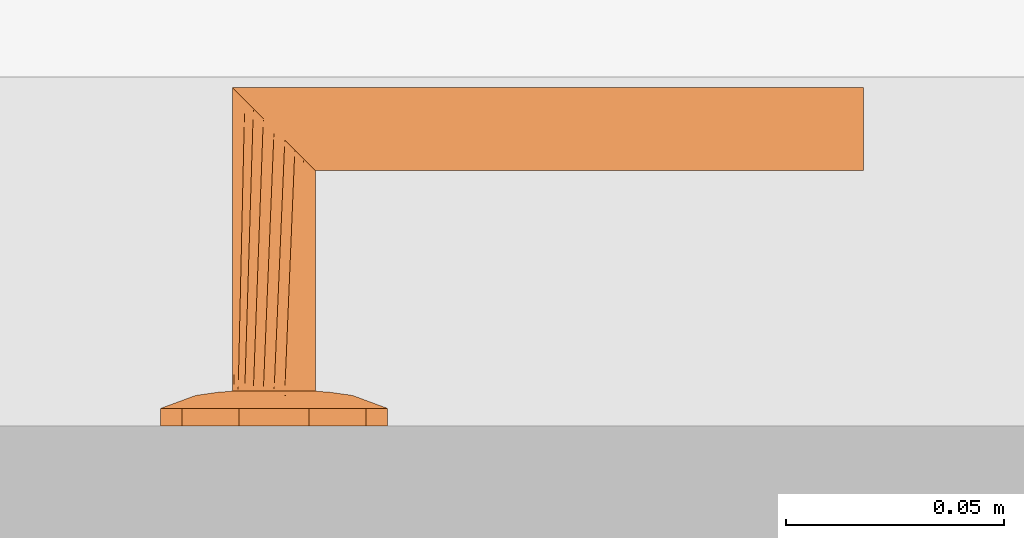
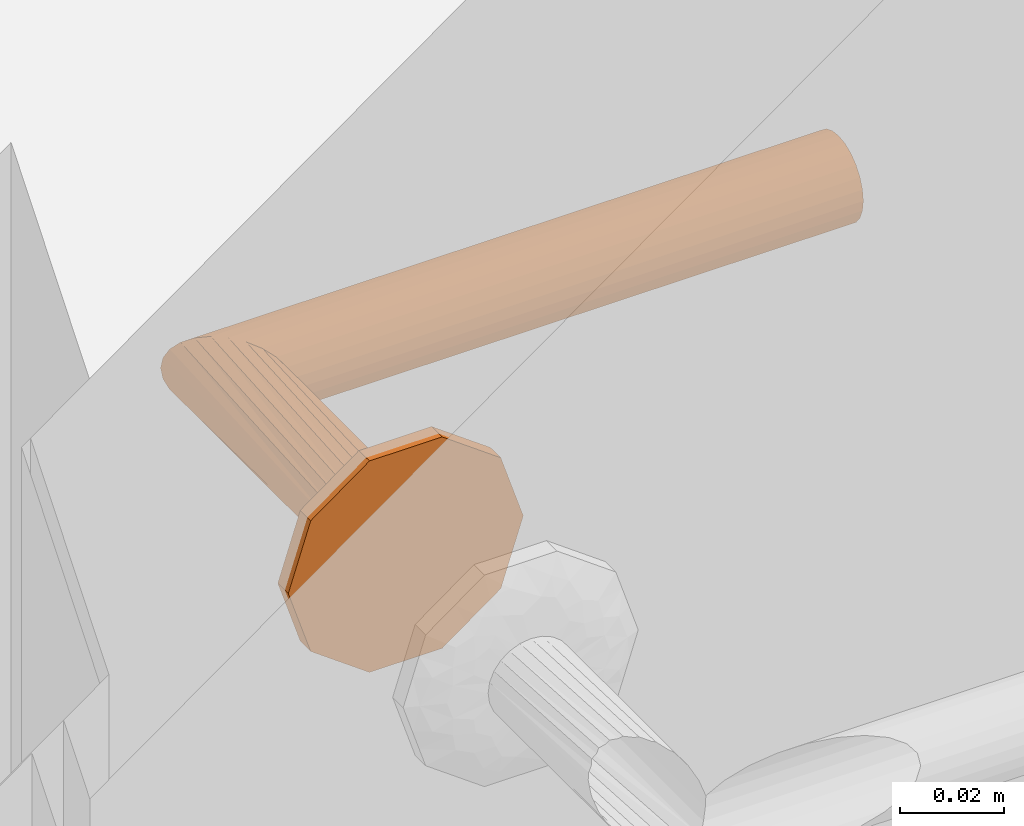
# One storey, part 48 of 55: 1 proxy.
"""IFC2X3 building model written with IfcOpenShell, lengths in millimetres."""

from ifc_helpers import new_model, entity, si_unit, converted_unit, direction, frame, origin, place, context, subcontext, project, spatial, faceted_brep, source, transform, mapped, material, type_object, type_shapes, element, save


model = new_model("IFC2X3")

# Units and contexts
model_context = context("Model", 3, precision=0.01, world=origin(), true_north=direction((6.123233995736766e-17, 1.0)))
plan_context = context("Plan", 3, precision=0.01, world=origin(), true_north=direction((6.123233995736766e-17, 1.0)))
body_context = subcontext(model_context, "Body", "Model", "MODEL_VIEW")
ifc_project = project(units=[si_unit("LENGTHUNIT", "METRE", prefix="MILLI"), converted_unit("PLANEANGLEUNIT", "DEGREE", entity("IfcPlaneAngleMeasure", 0.017453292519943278), si_unit("PLANEANGLEUNIT", "RADIAN"), dimensions=[0, 0, 0, 0, 0, 0, 0]), si_unit("AREAUNIT", "SQUARE_METRE")], contexts=[model_context, plan_context])

# Site, building, storey
site_placement = place(None, origin())
site = spatial("IfcSite", under=ifc_project, at=site_placement, Name="Default", CompositionType="ELEMENT")
building_placement = place(site_placement, origin())
building = spatial("IfcBuilding", under=site, at=building_placement, CompositionType="ELEMENT")
storey_placement = place(building_placement, origin())
storey = spatial("IfcBuildingStorey", under=building, at=storey_placement, Name="1K", CompositionType="ELEMENT", Elevation=0.0)

# Proxy
ifc_material = material(Name="<Unnamed>")
building_element_proxy_type = type_object("IfcBuildingElementProxyType", Name="Door-handle_Lever_ABLOY_INOXI_3-19ss-002_RT:Default", PredefinedType="NOTDEFINED", material=ifc_material)
shared_shape = source(origin(), body_context, "Body", "Brep", [
    faceted_brep([(0.0, 0.0, 0.0), (21.034441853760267, -15.282416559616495, 0.0), (14.534441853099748, -20.00494299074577, 0.0), (8.034441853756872, -24.72746942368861, 0.0), (0.0, -24.72746942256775, 0.0), (23.51722092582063, -7.6412082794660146, 0.0), (26.0, 0.0, 0.0), (-8.034441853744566, -24.727469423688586, 0.0), (-14.534441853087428, -20.00494299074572, 0.0), (-21.03444185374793, -15.282416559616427, 0.0), (-23.517220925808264, -7.641208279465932, 0.0), (-26.0, 0.0, 0.0), (-23.517220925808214, 7.641208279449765, 0.0), (23.517220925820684, 7.641208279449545, 0.0), (21.034441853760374, 15.282416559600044, 0.0), (14.53444185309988, 20.00494299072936, 0.0), (8.034441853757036, 24.72746942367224, 0.0), (-21.034441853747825, 15.282416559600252, 0.0), (-14.53444185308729, 20.004942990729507, 0.0), (-8.0344418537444, 24.72746942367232, 0.0), (0.0, 24.72746942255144, 0.0), (0.0, 0.0, 8.0), (4.7500000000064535, -8.227241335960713, 8.0), (5.937500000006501, -6.170431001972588, 8.0), (7.125000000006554, -4.113620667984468, 8.0), (8.312500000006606, -2.0568103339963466, 8.0), (9.500000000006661, 0.0, 8.0), (8.312500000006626, 2.056810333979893, 8.0), (2.3750000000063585, -8.227241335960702, 8.0), (0.0, -8.227241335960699, 8.0), (-2.3749999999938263, -8.227241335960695, 8.0), (-4.749999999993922, -8.227241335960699, 8.0), (-5.937499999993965, -6.170431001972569, 8.0), (-7.124999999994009, -4.113620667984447, 8.0), (-8.312499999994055, -2.056810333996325, 8.0), (-9.499999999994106, 0.0, 8.0), (7.125000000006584, 4.113620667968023, 8.0), (5.937500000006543, 6.170431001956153, 8.0), (4.750000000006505, 8.227241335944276, 8.0), (2.3750000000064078, 8.22724133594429, 8.0), (-8.31249999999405, 2.0568103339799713, 8.0), (-7.12499999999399, 4.113620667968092, 8.0), (-5.9374999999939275, 6.170431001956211, 8.0), (-4.74999999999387, 8.227241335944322, 8.0), (0.0, 8.227241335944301, 8.0), (-2.374999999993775, 8.227241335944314, 8.0), (-22.488765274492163, -10.806469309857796, 4.030771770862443), (-16.663919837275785, -7.932665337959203, 6.877259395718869), (-20.643071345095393, -6.292822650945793, 5.929480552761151), (-12.50457926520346, -5.179566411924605, 7.774932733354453), (-16.764060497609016, -3.820257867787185, 7.1747985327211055), (-9.071726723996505, -10.311606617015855, 7.7520782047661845), (-11.963426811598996, -8.625290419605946, 7.618343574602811), (-11.979136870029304, -13.678312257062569, 6.945778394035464), (5.7585542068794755, -20.96753300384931, 5.871476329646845), (0.0, -24.72746942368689, 4.030771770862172), (8.03444185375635, -24.727469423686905, 4.030771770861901), (16.66391982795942, -7.932665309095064, 6.877259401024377), (22.488765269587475, -10.806469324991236, 4.03077177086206), (20.64307133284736, -6.29282258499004, 5.929480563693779), (14.534441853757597, -20.004942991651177, 4.030771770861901), (9.499431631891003, -18.64368355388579, 6.154325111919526), (-15.783149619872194, -11.991003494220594, 6.50080018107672), (-21.034441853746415, -15.282416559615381, 4.030771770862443), (-14.53444185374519, -20.00494299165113, 4.030771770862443), (-23.012042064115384, 0.0, 5.135401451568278), (-23.943088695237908, -6.330522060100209, 4.030771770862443), (11.96342678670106, -8.62529049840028, 7.618343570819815), (12.504579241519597, -5.179566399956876, 7.774932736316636), (16.764060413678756, -3.8202578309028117, 7.17479855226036), (15.783149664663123, -11.991003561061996, 6.50080015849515), (17.985351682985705, 0.0, 6.993737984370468), (23.012042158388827, 0.0, 5.135401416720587), (8.661516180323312, -10.478936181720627, 7.768126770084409), (-8.03444185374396, -24.727469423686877, 4.030771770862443), (-3.3573143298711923, -21.197247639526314, 5.971427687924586), (-9.941915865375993, -17.061976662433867, 6.522757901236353), (-5.973257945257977, -16.430139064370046, 7.110979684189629), (-7.711266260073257, -12.760344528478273, 7.594456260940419), (11.979136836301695, -13.678312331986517, 6.945778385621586), (7.511307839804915, -13.358932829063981, 7.529187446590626), (5.953298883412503, -16.50608604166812, 7.096344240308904), (-1.5654593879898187, -15.307443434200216, 7.519134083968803), (-7.784980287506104, -20.476295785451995, 5.812837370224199), (2.8135289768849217, -17.76392260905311, 6.993737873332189), (-17.98535168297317, 0.0, 6.993737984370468), (-26.0, 0.0, 4.030771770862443), (-23.51722092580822, -7.641208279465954, 4.030771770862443), (23.943088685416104, -6.33052209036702, 4.030771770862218), (24.308823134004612, -5.204907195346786, 4.030771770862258), (26.0, 0.0, 4.030771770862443), (21.03444185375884, -15.282416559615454, 4.030771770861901), (22.617646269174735, -10.40981439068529, 4.030771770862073), (22.488765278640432, 10.806469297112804, 4.030771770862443), (16.66391984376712, 7.932665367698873, 6.877259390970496), (20.643071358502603, 6.292822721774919, 5.929480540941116), (12.504579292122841, 5.179566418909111, 7.774932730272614), (16.764060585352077, 3.8202579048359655, 7.174798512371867), (9.07172672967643, 10.31160659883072, 7.752078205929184), (11.963426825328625, 8.62529034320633, 7.618343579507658), (11.979136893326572, 13.67831220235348, 6.9457784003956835), (-5.758554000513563, 20.96753314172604, 5.8714763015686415), (0.0, 24.72746942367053, 4.030771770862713), (-8.03444185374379, 24.72746942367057, 4.030771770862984), (-16.663919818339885, 7.932665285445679, 6.877259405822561), (-22.48876526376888, 10.806469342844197, 4.030771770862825), (-20.643071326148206, 6.2928225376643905, 5.929480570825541), (-14.534441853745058, 20.004942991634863, 4.030771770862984), (-9.499431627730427, 18.643683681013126, 6.154325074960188), (15.783149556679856, 11.991003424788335, 6.5008002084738), (21.03444185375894, 15.282416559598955, 4.030771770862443), (14.534441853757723, 20.004942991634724, 4.030771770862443), (23.943088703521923, 6.330522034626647, 4.030771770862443), (-11.96342675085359, 8.625290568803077, 7.618343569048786), (-12.504579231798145, 5.179566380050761, 7.77493273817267), (-16.764060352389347, 3.820257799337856, 7.174798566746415), (-15.78314967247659, 11.991003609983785, 6.500800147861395), (-8.661516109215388, 10.478936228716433, 7.768126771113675), (8.034441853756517, 24.727469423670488, 4.030771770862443), (3.3573144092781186, 21.197247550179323, 5.971427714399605), (9.941915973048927, 17.061976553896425, 6.522757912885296), (5.9732581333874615, 16.430139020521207, 7.110979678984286), (7.711266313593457, 12.760344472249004, 7.5944562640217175), (-11.979136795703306, 13.678312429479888, 6.945778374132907), (-7.511307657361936, 13.358932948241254, 7.5291874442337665), (-5.9532988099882, 16.50608628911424, 7.096344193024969), (1.5654596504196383, 15.3074431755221, 7.519134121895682), (7.784980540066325, 20.476295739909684, 5.812837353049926), (-2.81352881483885, 17.76392263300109, 6.993737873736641), (23.51722092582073, 7.6412082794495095, 4.030771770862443), (-23.94308867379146, 6.330522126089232, 4.030771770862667), (-24.308823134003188, 5.20490719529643, 4.030771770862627), (-21.034441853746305, 15.282416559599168, 4.030771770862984), (-22.617646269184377, 10.409814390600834, 4.0307717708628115)], [[[0, 1, 2]], [[0, 2, 3]], [[0, 3, 4]], [[0, 5, 1]], [[0, 6, 5]], [[0, 4, 7]], [[0, 7, 8]], [[0, 8, 9]], [[0, 9, 10]], [[0, 10, 11]], [[0, 11, 12]], [[0, 13, 6]], [[0, 14, 13]], [[0, 15, 14]], [[0, 16, 15]], [[0, 12, 17]], [[0, 17, 18]], [[0, 18, 19]], [[0, 19, 20]], [[0, 20, 16]], [[21, 22, 23]], [[21, 23, 24]], [[21, 24, 25]], [[21, 25, 26]], [[21, 26, 27]], [[21, 28, 22]], [[21, 29, 28]], [[21, 30, 29]], [[21, 31, 30]], [[21, 32, 31]], [[21, 33, 32]], [[21, 34, 33]], [[21, 35, 34]], [[21, 27, 36]], [[21, 36, 37]], [[21, 37, 38]], [[21, 38, 39]], [[21, 40, 35]], [[21, 41, 40]], [[21, 42, 41]], [[21, 43, 42]], [[21, 39, 44]], [[21, 44, 45]], [[21, 45, 43]], [[46, 47, 48]], [[47, 49, 50]], [[49, 33, 34]], [[51, 52, 53]], [[49, 52, 33]], [[48, 47, 50]], [[54, 55, 56]], [[57, 58, 59]], [[56, 60, 61]], [[62, 63, 64]], [[65, 66, 48]], [[67, 57, 68]], [[68, 69, 25]], [[57, 67, 70]], [[69, 26, 25]], [[62, 53, 52]], [[71, 69, 72]], [[67, 23, 73]], [[74, 55, 75]], [[76, 77, 78]], [[79, 60, 70]], [[69, 59, 72]], [[80, 81, 61]], [[77, 30, 78]], [[82, 30, 77]], [[28, 80, 22]], [[77, 83, 75]], [[75, 82, 77]], [[55, 84, 75]], [[85, 50, 35]], [[24, 68, 25]], [[82, 84, 29]], [[84, 82, 75]], [[31, 78, 30]], [[82, 29, 30]], [[34, 35, 50]], [[52, 49, 47]], [[62, 52, 47]], [[34, 50, 49]], [[53, 78, 51]], [[32, 33, 52]], [[85, 65, 50]], [[66, 65, 86]], [[67, 68, 24]], [[77, 76, 83]], [[65, 48, 50]], [[63, 62, 46]], [[48, 66, 87, 46]], [[62, 47, 46]], [[69, 68, 57]], [[80, 73, 22]], [[70, 67, 79]], [[67, 24, 23]], [[72, 88, 89, 90]], [[69, 71, 26]], [[59, 69, 57]], [[61, 60, 79]], [[62, 64, 53]], [[91, 58, 70]], [[72, 59, 88]], [[57, 70, 58]], [[59, 58, 92]], [[80, 61, 79]], [[91, 70, 60]], [[61, 81, 54]], [[73, 80, 79]], [[28, 84, 81]], [[67, 73, 79]], [[29, 84, 28]], [[22, 73, 23]], [[51, 31, 32]], [[76, 78, 53]], [[53, 64, 76]], [[83, 64, 74]], [[64, 83, 76]], [[75, 83, 74]], [[31, 51, 78]], [[52, 51, 32]], [[28, 81, 80]], [[54, 81, 84]], [[55, 54, 84]], [[61, 54, 56]], [[93, 94, 95]], [[94, 96, 97]], [[96, 36, 27]], [[98, 99, 100]], [[96, 99, 36]], [[95, 94, 97]], [[101, 102, 103]], [[104, 105, 106]], [[103, 107, 108]], [[109, 110, 111]], [[72, 112, 95]], [[113, 104, 114]], [[114, 115, 40]], [[104, 113, 116]], [[115, 35, 40]], [[109, 100, 99]], [[85, 115, 65]], [[113, 42, 117]], [[118, 102, 119]], [[120, 121, 122]], [[123, 107, 116]], [[115, 106, 65]], [[124, 125, 108]], [[121, 39, 122]], [[126, 39, 121]], [[45, 124, 43]], [[121, 127, 119]], [[119, 126, 121]], [[102, 128, 119]], [[71, 97, 26]], [[41, 114, 40]], [[126, 128, 44]], [[128, 126, 119]], [[38, 122, 39]], [[126, 44, 39]], [[27, 26, 97]], [[99, 96, 94]], [[109, 99, 94]], [[27, 97, 96]], [[100, 122, 98]], [[37, 36, 99]], [[71, 72, 97]], [[112, 72, 90]], [[113, 114, 41]], [[121, 120, 127]], [[72, 95, 97]], [[110, 109, 93]], [[95, 112, 129, 93]], [[109, 94, 93]], [[115, 114, 104]], [[124, 117, 43]], [[116, 113, 123]], [[113, 41, 42]], [[65, 130, 131, 86]], [[115, 85, 35]], [[106, 115, 104]], [[108, 107, 123]], [[109, 111, 100]], [[132, 105, 116]], [[65, 106, 130]], [[104, 116, 105]], [[106, 105, 133]], [[124, 108, 123]], [[132, 116, 107]], [[108, 125, 101]], [[117, 124, 123]], [[45, 128, 125]], [[113, 117, 123]], [[44, 128, 45]], [[43, 117, 42]], [[98, 38, 37]], [[120, 122, 100]], [[100, 111, 120]], [[127, 111, 118]], [[111, 127, 120]], [[119, 127, 118]], [[38, 98, 122]], [[99, 98, 37]], [[45, 125, 124]], [[101, 125, 128]], [[102, 101, 128]], [[108, 101, 103]], [[7, 74, 64, 63, 9, 8]], [[10, 9, 63, 46, 87, 66, 86, 11]], [[6, 90, 89, 88, 92, 1, 5]], [[1, 58, 91]], [[74, 7, 4, 3, 56, 55]], [[60, 56, 3, 2, 1, 91]], [[1, 92, 58]], [[14, 110, 93, 129, 112, 90, 6, 13]], [[111, 110, 14, 15, 16, 118]], [[11, 86, 131, 130, 133, 17, 12]], [[17, 105, 132]], [[118, 16, 20, 19, 103, 102]], [[107, 103, 19, 18, 17, 132]], [[17, 133, 105]], [[59, 92, 88]], [[106, 133, 130]]]),
    faceted_brep([(4.7499999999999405, -8.22724133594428, 8.0), (2.4587809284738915, -9.176295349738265, 8.0), (0.0, -9.499999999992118, 8.0), (-2.4587809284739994, -9.176295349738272, 8.0), (-4.7500000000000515, -8.227241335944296, 8.0), (-6.717514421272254, -6.717514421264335, 8.0), (-8.227241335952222, -4.74999999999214, 8.0), (-9.176295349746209, -2.4587809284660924, 8.0), (-9.500000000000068, 0.0, 8.0), (-9.176295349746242, 2.458780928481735, 8.0), (-8.227241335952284, 4.750000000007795, 8.0), (-6.717514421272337, 6.717514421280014, 8.0), (-4.750000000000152, 8.227241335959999, 8.0), (-2.4587809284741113, 9.176295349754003, 8.0), (0.0, 9.500000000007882, 8.0), (2.4587809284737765, 9.176295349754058, 8.0), (4.7499999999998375, 8.227241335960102, 8.0), (6.717514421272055, 6.717514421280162, 8.0), (8.22724133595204, 4.75000000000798, 8.0), (9.17629534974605, 2.458780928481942, 8.0), (9.499999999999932, 0.0, 8.0), (9.17629534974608, -2.458780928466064, 8.0), (8.227241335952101, -4.749999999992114, 8.0), (6.717514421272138, -6.7175144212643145, 8.0), (-8.227241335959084, 4.7499999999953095, 59.772758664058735), (-6.717514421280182, 6.7175144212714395, 61.282485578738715), (-9.176295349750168, 2.458780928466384, 58.82370465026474), (-4.750000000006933, 8.227241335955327, 63.25000000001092), (-2.4587809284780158, 9.176295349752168, 65.54121907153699), (-9.500000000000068, 0.0, 58.50000000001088), (0.0, 9.50000000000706, 68.0), (4.750000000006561, 8.227241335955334, 72.75000000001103), (2.4587809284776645, 9.17629534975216, 70.45878092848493), (6.717514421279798, 6.7175144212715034, 74.71751442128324), (8.22724133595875, 4.749999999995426, 76.22724133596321), (9.17629534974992, 2.458780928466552, 77.17629534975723), (9.499999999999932, 0.0, 77.50000000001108), (9.176295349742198, -2.4587809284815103, 77.1762953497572), (8.227241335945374, -4.750000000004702, 76.22724133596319), (6.7175144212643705, -6.717514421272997, 74.7175144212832), (4.749999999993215, -8.227241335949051, 72.75000000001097), (2.4587809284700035, -9.17629534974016, 70.45878092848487), (0.0, -9.49999999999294, 68.0), (-2.4587809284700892, -9.176295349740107, 65.54121907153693), (-4.749999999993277, -8.227241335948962, 63.250000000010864), (-6.717514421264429, -6.717514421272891, 61.282485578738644), (-9.176295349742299, -2.458780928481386, 58.8237046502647), (-8.227241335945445, -4.750000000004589, 59.77275866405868), (-135.0, -9.176295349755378, 70.4587809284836), (-135.0, -8.227241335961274, 72.75000000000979), (-135.0, -6.717514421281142, 74.71751442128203), (-135.0, -4.750000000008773, 76.22724133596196), (-135.0, -2.4587809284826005, 77.17629534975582), (-135.0, 0.0, 77.5000000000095), (-135.0, 2.4587809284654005, 77.17629534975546), (-135.0, 4.749999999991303, 76.22724133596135), (-135.0, 6.717514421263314, 74.71751442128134), (-135.0, 8.227241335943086, 72.75000000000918), (-135.0, 9.17629534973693, 70.45878092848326), (-135.0, 9.499999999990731, 68.0), (-135.0, 9.17629534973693, 65.54121907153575), (-135.0, 8.227241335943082, 63.250000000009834), (-135.0, 6.717514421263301, 61.28248557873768), (-135.0, 4.749999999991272, 59.772758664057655), (-135.0, 2.458780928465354, 58.823704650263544), (-135.0, 0.0, 58.50000000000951), (-135.0, -2.458780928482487, 58.82370465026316), (-135.0, -4.750000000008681, 59.772758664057), (-135.0, -6.7175144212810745, 61.28248557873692), (-135.0, -8.227241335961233, 63.25000000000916), (-135.0, -9.176295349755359, 65.54121907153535), (-135.0, -9.500000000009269, 68.0)], [[[0, 1, 2, 3, 4, 5, 6, 7, 8, 9, 10, 11, 12, 13, 14, 15, 16, 17, 18, 19, 20, 21, 22, 23]], [[24, 25, 11, 10]], [[26, 24, 10, 9]], [[14, 27, 28]], [[13, 27, 14]], [[25, 27, 13]], [[29, 26, 9, 8]], [[12, 11, 25]], [[25, 13, 12]], [[28, 30, 15]], [[31, 17, 32]], [[33, 18, 31]], [[19, 34, 35]], [[33, 34, 19]], [[20, 19, 35, 36]], [[16, 15, 30]], [[14, 28, 15]], [[19, 18, 33]], [[17, 31, 18]], [[17, 16, 32]], [[30, 32, 16]], [[20, 36, 37, 21]], [[38, 21, 37]], [[22, 39, 40]], [[38, 39, 21]], [[23, 40, 41]], [[39, 22, 21]], [[1, 42, 43]], [[42, 1, 0]], [[23, 41, 0]], [[23, 22, 40]], [[41, 42, 0]], [[44, 45, 3]], [[43, 44, 2]], [[46, 29, 8, 7]], [[47, 46, 7, 6]], [[45, 47, 6, 5]], [[45, 4, 3]], [[3, 2, 44]], [[5, 4, 45]], [[43, 2, 1]], [[48, 49, 50, 51, 52, 53, 54, 55, 56, 57, 58, 59, 60, 61, 62, 63, 64, 65, 66, 67, 68, 69, 70, 71]], [[64, 63, 24, 26]], [[65, 64, 26, 29]], [[61, 60, 28, 27]], [[62, 61, 27, 25]], [[63, 62, 25, 24]], [[59, 30, 28, 60]], [[57, 56, 33, 31]], [[58, 57, 31, 32]], [[54, 53, 36, 35]], [[55, 54, 35, 34]], [[56, 55, 34, 33]], [[32, 30, 59, 58]], [[52, 51, 38, 37]], [[53, 52, 37, 36]], [[49, 48, 41, 40]], [[50, 49, 40, 39]], [[51, 50, 39, 38]], [[42, 41, 48, 71]], [[69, 68, 45, 44]], [[70, 69, 44, 43]], [[66, 65, 29, 46]], [[67, 66, 46, 47]], [[68, 67, 47, 45]], [[42, 71, 70, 43]]]),
])
type_shapes(building_element_proxy_type, [shared_shape])
proxy_placement = place(storey_placement, frame((10964.99506085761, 4129.99995949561, 1000.0), z_axis=(0.0, 1.0, 0.0), x_axis=(-1.0, 0.0, 0.0)))
element("IfcBuildingElementProxy", 1, at=proxy_placement, inside=storey, type_object=building_element_proxy_type, material=ifc_material, Name="Door-handle_Lever_ABLOY_INOXI_3-19ss-002_RT:Default", ObjectType="Door-handle_Lever_ABLOY_INOXI_3-19ss-002_RT:Default", context=body_context, shape_type="MappedRepresentation", body=[
    mapped(shared_shape, transform((0.0, 0.0, 0.0), scale=1.0)),
])

save(model, "model.ifc")
